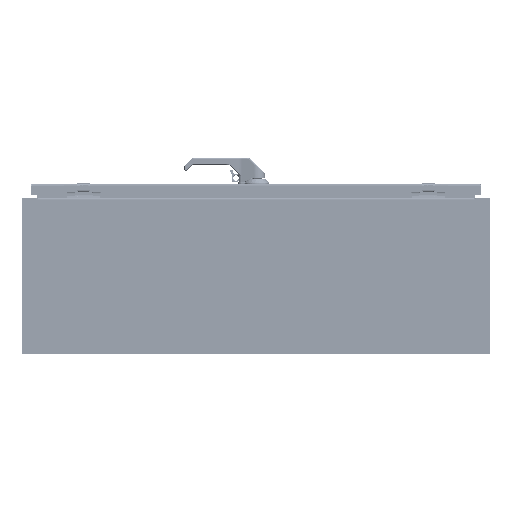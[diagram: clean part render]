
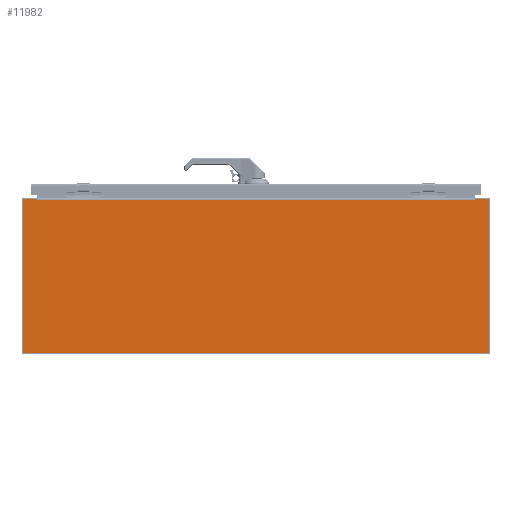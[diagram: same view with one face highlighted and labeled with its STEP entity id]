
A CAD part, front view. The second image highlights one B-rep face of the part: STEP entity #11982.
In plain terms, the highlighted planar face has unit normal (0, -1, 0).
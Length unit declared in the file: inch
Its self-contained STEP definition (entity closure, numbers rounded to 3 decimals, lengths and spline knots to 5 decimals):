
#10549=CARTESIAN_POINT('',(-17.857,0.,5.857));
#10550=DIRECTION('',(0.,-1.,0.));
#10551=DIRECTION('',(0.,0.,1.));
#10552=AXIS2_PLACEMENT_3D('',#10549,#10550,#10551);
#10557=DIRECTION('',(-1.,0.,0.));
#10558=VECTOR('',#10557,1.03388);
#10559=CARTESIAN_POINT('',(-16.82312,0.,5.937));
#10560=LINE('',#10559,#10558);
#10564=DIRECTION('',(0.174,0.,-0.985));
#10565=VECTOR('',#10564,0.05483);
#10566=CARTESIAN_POINT('',(-16.82312,0.,5.937));
#10567=LINE('',#10566,#10565);
#10571=DIRECTION('',(-1.,0.,0.));
#10572=VECTOR('',#10571,0.0156);
#10573=CARTESIAN_POINT('',(-16.798,0.,5.883));
#10574=LINE('',#10573,#10572);
#10578=DIRECTION('',(1.,0.,0.));
#10579=VECTOR('',#10578,0.0156);
#10580=CARTESIAN_POINT('',(16.798,0.,5.883));
#10581=LINE('',#10580,#10579);
#10585=DIRECTION('',(-0.174,0.,-0.985));
#10586=VECTOR('',#10585,0.05483);
#10587=CARTESIAN_POINT('',(16.82312,0.,5.937));
#10588=LINE('',#10587,#10586);
#10592=DIRECTION('',(-1.,0.,0.));
#10593=VECTOR('',#10592,1.03388);
#10594=CARTESIAN_POINT('',(17.857,0.,5.937));
#10595=LINE('',#10594,#10593);
#10599=CARTESIAN_POINT('',(17.857,0.,5.857));
#10600=DIRECTION('',(0.,-1.,0.));
#10601=DIRECTION('',(1.,0.,0.));
#10602=AXIS2_PLACEMENT_3D('',#10599,#10600,#10601);
#10607=DIRECTION('',(0.,0.,1.));
#10608=VECTOR('',#10607,11.714);
#10609=CARTESIAN_POINT('',(17.937,0.,-5.857));
#10610=LINE('',#10609,#10608);
#10614=CARTESIAN_POINT('',(17.857,0.,-5.857));
#10615=DIRECTION('',(0.,-1.,0.));
#10616=DIRECTION('',(0.,0.,-1.));
#10617=AXIS2_PLACEMENT_3D('',#10614,#10615,#10616);
#10622=DIRECTION('',(1.,0.,0.));
#10623=VECTOR('',#10622,35.714);
#10624=CARTESIAN_POINT('',(-17.857,0.,-5.937));
#10625=LINE('',#10624,#10623);
#10629=CARTESIAN_POINT('',(-17.857,0.,-5.857));
#10630=DIRECTION('',(0.,-1.,0.));
#10631=DIRECTION('',(-1.,0.,0.));
#10632=AXIS2_PLACEMENT_3D('',#10629,#10630,#10631);
#10637=DIRECTION('',(0.,0.,-1.));
#10638=VECTOR('',#10637,11.714);
#10639=CARTESIAN_POINT('',(-17.937,0.,5.857));
#10640=LINE('',#10639,#10638);
#10918=DIRECTION('',(1.,0.,0.));
#10919=VECTOR('',#10918,33.596);
#10920=CARTESIAN_POINT('',(-16.798,0.,5.883));
#10921=LINE('',#10920,#10919);
#11763=CARTESIAN_POINT('',(16.798,0.,5.883));
#11764=CARTESIAN_POINT('',(16.8136,0.,5.883));
#11765=VERTEX_POINT('',#11763);
#11766=VERTEX_POINT('',#11764);
#11767=CARTESIAN_POINT('',(16.82312,0.,5.937));
#11768=VERTEX_POINT('',#11767);
#11775=CARTESIAN_POINT('',(-16.798,0.,5.883));
#11776=CARTESIAN_POINT('',(-16.8136,0.,5.883));
#11777=VERTEX_POINT('',#11775);
#11778=VERTEX_POINT('',#11776);
#11779=CARTESIAN_POINT('',(-16.82312,0.,5.937));
#11780=VERTEX_POINT('',#11779);
#11843=CARTESIAN_POINT('',(-17.857,0.,5.937));
#11844=CARTESIAN_POINT('',(-17.937,0.,5.857));
#11845=VERTEX_POINT('',#11843);
#11846=VERTEX_POINT('',#11844);
#11851=CARTESIAN_POINT('',(-17.937,0.,-5.857));
#11852=CARTESIAN_POINT('',(-17.857,0.,-5.937));
#11853=VERTEX_POINT('',#11851);
#11854=VERTEX_POINT('',#11852);
#11859=CARTESIAN_POINT('',(17.857,0.,-5.937));
#11860=CARTESIAN_POINT('',(17.937,0.,-5.857));
#11861=VERTEX_POINT('',#11859);
#11862=VERTEX_POINT('',#11860);
#11867=CARTESIAN_POINT('',(17.937,0.,5.857));
#11868=CARTESIAN_POINT('',(17.857,0.,5.937));
#11869=VERTEX_POINT('',#11867);
#11870=VERTEX_POINT('',#11868);
#11947=CARTESIAN_POINT('',(0.,0.,0.));
#11948=DIRECTION('',(0.,-1.,0.));
#11949=DIRECTION('',(-1.,0.,0.));
#11950=AXIS2_PLACEMENT_3D('',#11947,#11948,#11949);
#11951=PLANE('',#11950);
#11953=ORIENTED_EDGE('',*,*,#11952,.F.);
#11955=ORIENTED_EDGE('',*,*,#11954,.F.);
#11957=ORIENTED_EDGE('',*,*,#11956,.T.);
#11959=ORIENTED_EDGE('',*,*,#11958,.F.);
#11961=ORIENTED_EDGE('',*,*,#11960,.T.);
#11963=ORIENTED_EDGE('',*,*,#11962,.T.);
#11965=ORIENTED_EDGE('',*,*,#11964,.F.);
#11967=ORIENTED_EDGE('',*,*,#11966,.F.);
#11969=ORIENTED_EDGE('',*,*,#11968,.F.);
#11971=ORIENTED_EDGE('',*,*,#11970,.F.);
#11973=ORIENTED_EDGE('',*,*,#11972,.F.);
#11975=ORIENTED_EDGE('',*,*,#11974,.F.);
#11977=ORIENTED_EDGE('',*,*,#11976,.F.);
#11979=ORIENTED_EDGE('',*,*,#11978,.F.);
#11980=EDGE_LOOP('',(#11953,#11955,#11957,#11959,#11961,#11963,#11965,#11967,
#11969,#11971,#11973,#11975,#11977,#11979));
#11981=FACE_OUTER_BOUND('',#11980,.F.);
#10553=CIRCLE('',#10552,0.08);
#10603=CIRCLE('',#10602,0.08);
#10618=CIRCLE('',#10617,0.08);
#10633=CIRCLE('',#10632,0.08);
#11952=EDGE_CURVE('',#11845,#11846,#10553,.T.);
#11954=EDGE_CURVE('',#11780,#11845,#10560,.T.);
#11956=EDGE_CURVE('',#11780,#11778,#10567,.T.);
#11958=EDGE_CURVE('',#11777,#11778,#10574,.T.);
#11960=EDGE_CURVE('',#11777,#11765,#10921,.T.);
#11962=EDGE_CURVE('',#11765,#11766,#10581,.T.);
#11964=EDGE_CURVE('',#11768,#11766,#10588,.T.);
#11966=EDGE_CURVE('',#11870,#11768,#10595,.T.);
#11968=EDGE_CURVE('',#11869,#11870,#10603,.T.);
#11970=EDGE_CURVE('',#11862,#11869,#10610,.T.);
#11972=EDGE_CURVE('',#11861,#11862,#10618,.T.);
#11974=EDGE_CURVE('',#11854,#11861,#10625,.T.);
#11976=EDGE_CURVE('',#11853,#11854,#10633,.T.);
#11978=EDGE_CURVE('',#11846,#11853,#10640,.T.);
#11982=ADVANCED_FACE('',(#11981),#11951,.T.);
